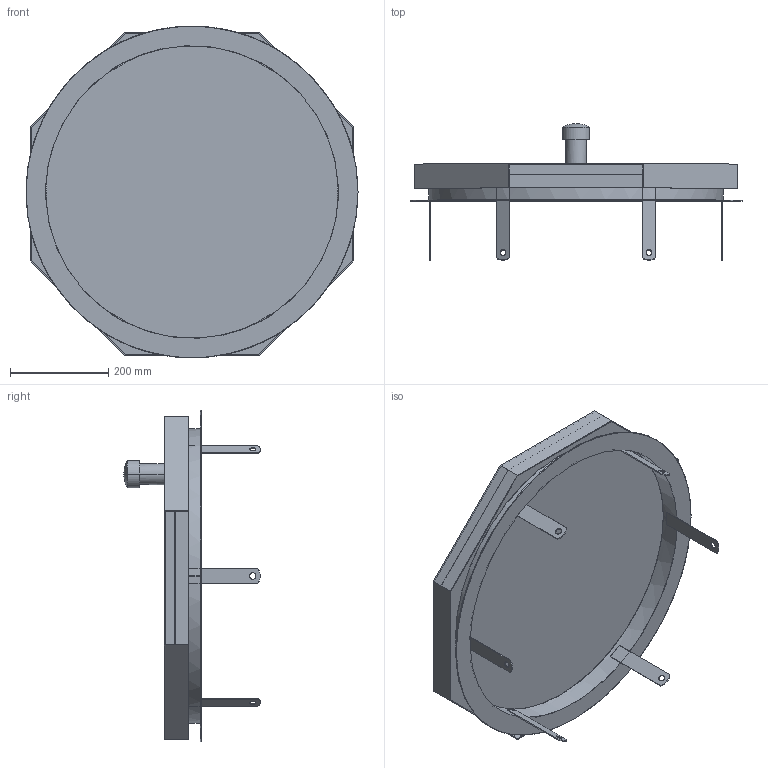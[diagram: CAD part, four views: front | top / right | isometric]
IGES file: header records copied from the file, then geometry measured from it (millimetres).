
Start section:  PTC IGES file: 017_000107.igs
Global section: file name: 017_000107.igs; native system: Creo Parametric by Parametric Technology Corporation; preprocessor: 2017170; author: set; organization: Unknown; date: 20180906.115601; units: millimetre
Bounding box: 675 x 277.25 x 674.44 mm (x, y, z)
Surface area: 2000750 mm2 (no closed solid volume)
Topology: 0 solids, 0 shells, 93 faces, 498 edges, 496 vertices
Faces by surface type: bspline 63, revolution 30
